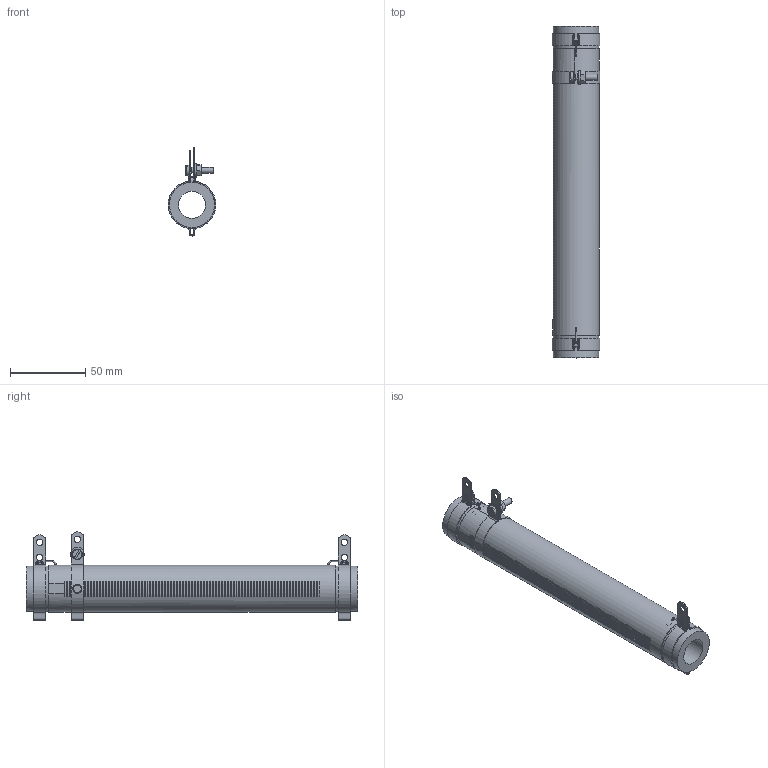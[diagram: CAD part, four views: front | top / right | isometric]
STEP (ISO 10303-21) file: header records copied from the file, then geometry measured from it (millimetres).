
FILE_DESCRIPTION(/* description */ (''),/* implementation_level */ '2;1');
FILE_NAME(/* name */ 'C:\_Vault\Dati\CATALOGO\RC-RS\RCR-RSR TC\RSR TC 220.stp',/* time_stamp */ '2014-03-20T11:31:50+01:00',/* author */ ('stefano'),/* organization */ (''),/* preprocessor_version */ 'ST-DEVELOPER v15.2',/* originating_system */ 'Autodesk Inventor 2014',/* authorisation */ '');
FILE_SCHEMA (('AUTOMOTIVE_DESIGN { 1 0 10303 214 3 1 1 }'));
Length unit declared in the file: millimetre
Products named in the file (1): RSR TC 220
Bounding box: 31.57 x 220 x 58.36 mm (x, y, z)
Volume: 110632.7 mm3; surface area: 38688.5 mm2
Topology: 1 solids, 8 shells, 703 faces, 2034 edges, 1348 vertices
Faces by surface type: plane 486, cylinder 176, cone 17, torus 12, bspline 12
Full cylindrical faces by diameter (mm): 0.4 x2, 0.8 x6, 3.571 x1, 4 x2, 4.2 x9, 4.3 x1, 9 x1, 18 x1, 30 x2, 31 x1
Entity records: 24909 total; most frequent: CARTESIAN_POINT 5578, ORIENTED_EDGE 3956, DIRECTION 3888, EDGE_CURVE 1978, AXIS2_PLACEMENT_3D 1378, VERTEX_POINT 1326, LINE 1132, VECTOR 1132
